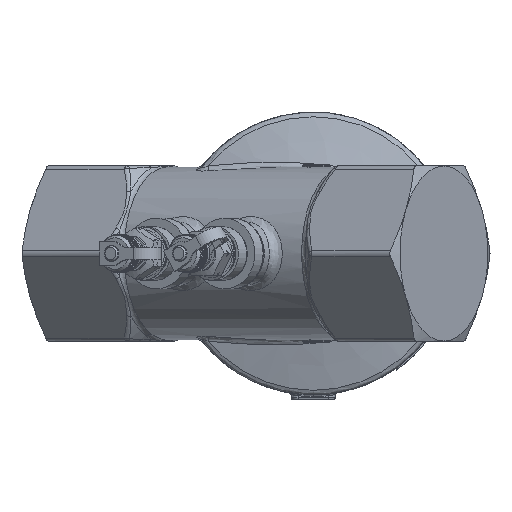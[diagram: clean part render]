
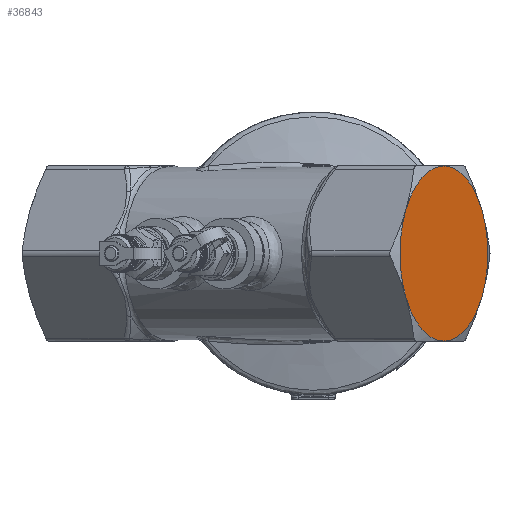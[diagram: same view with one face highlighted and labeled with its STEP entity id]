
A CAD part, front view. The second image highlights one B-rep face of the part: STEP entity #36843.
In plain terms, the highlighted planar face has unit normal (0.866, -0.5, 0).
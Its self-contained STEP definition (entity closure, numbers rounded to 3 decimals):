
#1793=PLANE($,#39206);
#3192=FACE_OUTER_BOUND($,#5315,.T.);
#5315=EDGE_LOOP($,(#27753,#27754,#27755,#27756,#27757,#27758));
#7911=CIRCLE($,#39207,27.875);
#7912=CIRCLE($,#39208,27.875);
#7913=CIRCLE($,#39209,27.875);
#7914=CIRCLE($,#39210,27.875);
#7915=CIRCLE($,#39211,27.875);
#7916=CIRCLE($,#39212,27.875);
#15626=VERTEX_POINT($,#62002);
#15627=VERTEX_POINT($,#62003);
#15628=VERTEX_POINT($,#62005);
#15629=VERTEX_POINT($,#62007);
#15630=VERTEX_POINT($,#62009);
#15631=VERTEX_POINT($,#62011);
#19918=EDGE_CURVE($,#15626,#15627,#7911,.T.);
#19919=EDGE_CURVE($,#15627,#15628,#7912,.T.);
#19920=EDGE_CURVE($,#15628,#15629,#7913,.T.);
#19921=EDGE_CURVE($,#15629,#15630,#7914,.T.);
#19922=EDGE_CURVE($,#15630,#15631,#7915,.T.);
#19923=EDGE_CURVE($,#15631,#15626,#7916,.T.);
#27753=ORIENTED_EDGE($,*,*,#19918,.T.);
#27754=ORIENTED_EDGE($,*,*,#19919,.T.);
#27755=ORIENTED_EDGE($,*,*,#19920,.T.);
#27756=ORIENTED_EDGE($,*,*,#19921,.T.);
#27757=ORIENTED_EDGE($,*,*,#19922,.T.);
#27758=ORIENTED_EDGE($,*,*,#19923,.T.);
#36843=ADVANCED_FACE($,(#3192),#1793,.F.);
#39206=AXIS2_PLACEMENT_3D($,#62001,#44453,#44454);
#39207=AXIS2_PLACEMENT_3D($,#62004,#44455,#44456);
#39208=AXIS2_PLACEMENT_3D($,#62006,#44457,#44458);
#39209=AXIS2_PLACEMENT_3D($,#62008,#44459,#44460);
#39210=AXIS2_PLACEMENT_3D($,#62010,#44461,#44462);
#39211=AXIS2_PLACEMENT_3D($,#62012,#44463,#44464);
#39212=AXIS2_PLACEMENT_3D($,#62013,#44465,#44466);
#44453=DIRECTION('center_axis',(-0.866,0.5,0.));
#44454=DIRECTION('ref_axis',(0.,0.,1.));
#44455=DIRECTION('center_axis',(0.866,-0.5,0.));
#44456=DIRECTION('ref_axis',(-0.5,-0.866,0.));
#44457=DIRECTION('center_axis',(0.866,-0.5,0.));
#44458=DIRECTION('ref_axis',(-0.5,-0.866,0.));
#44459=DIRECTION('center_axis',(0.866,-0.5,0.));
#44460=DIRECTION('ref_axis',(-0.5,-0.866,0.));
#44461=DIRECTION('center_axis',(0.866,-0.5,0.));
#44462=DIRECTION('ref_axis',(-0.5,-0.866,0.));
#44463=DIRECTION('center_axis',(0.866,-0.5,0.));
#44464=DIRECTION('ref_axis',(-0.5,-0.866,0.));
#44465=DIRECTION('center_axis',(0.866,-0.5,0.));
#44466=DIRECTION('ref_axis',(-0.5,-0.866,0.));
#62001=CARTESIAN_POINT('Origin',(41.569,-149.8,0.));
#62002=CARTESIAN_POINT('',(53.639,-128.894,-13.937));
#62003=CARTESIAN_POINT('',(53.639,-128.894,13.938));
#62004=CARTESIAN_POINT('Origin',(41.569,-149.8,0.));
#62005=CARTESIAN_POINT('',(41.569,-149.8,27.875));
#62006=CARTESIAN_POINT('Origin',(41.569,-149.8,0.));
#62007=CARTESIAN_POINT('',(29.499,-170.706,13.938));
#62008=CARTESIAN_POINT('Origin',(41.569,-149.8,0.));
#62009=CARTESIAN_POINT('',(29.499,-170.706,-13.937));
#62010=CARTESIAN_POINT('Origin',(41.569,-149.8,0.));
#62011=CARTESIAN_POINT('',(41.569,-149.8,-27.875));
#62012=CARTESIAN_POINT('Origin',(41.569,-149.8,0.));
#62013=CARTESIAN_POINT('Origin',(41.569,-149.8,0.));
